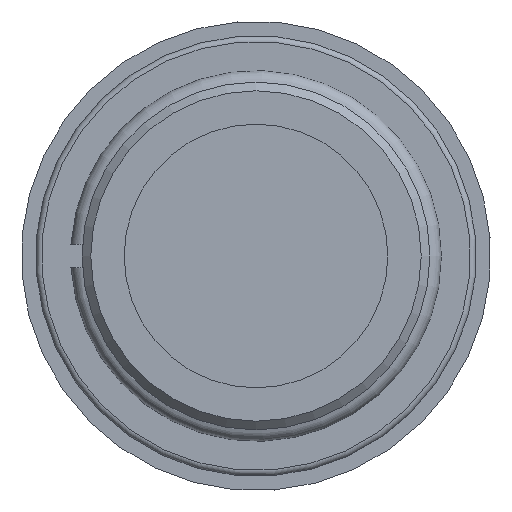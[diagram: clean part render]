
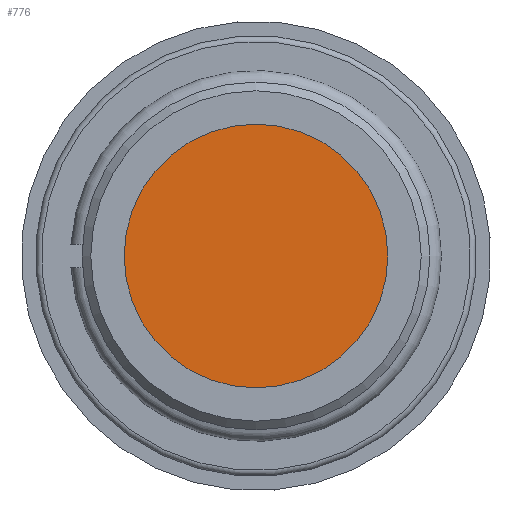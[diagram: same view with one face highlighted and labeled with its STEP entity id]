
A CAD part, left-side view. The second image highlights one B-rep face of the part: STEP entity #776.
In plain terms, the highlighted planar face has unit normal (-1, 0, 0).
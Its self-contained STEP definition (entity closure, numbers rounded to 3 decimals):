
#95=PLANE('',#843);
#152=FACE_OUTER_BOUND('',#216,.T.);
#216=EDGE_LOOP('',(#551));
#313=CIRCLE('',#842,4.55);
#373=VERTEX_POINT('',#1229);
#448=EDGE_CURVE('',#373,#373,#313,.T.);
#551=ORIENTED_EDGE('',*,*,#448,.T.);
#776=ADVANCED_FACE('',(#152),#95,.T.);
#842=AXIS2_PLACEMENT_3D('',#1230,#969,#970);
#843=AXIS2_PLACEMENT_3D('',#1231,#971,#972);
#969=DIRECTION('center_axis',(-1.,0.,0.));
#970=DIRECTION('ref_axis',(0.,-1.,0.));
#971=DIRECTION('center_axis',(-1.,0.,0.));
#972=DIRECTION('ref_axis',(0.,-1.,0.));
#1229=CARTESIAN_POINT('',(16.,-4.55,0.));
#1230=CARTESIAN_POINT('Origin',(16.,0.,0.));
#1231=CARTESIAN_POINT('Origin',(16.,0.,0.));
